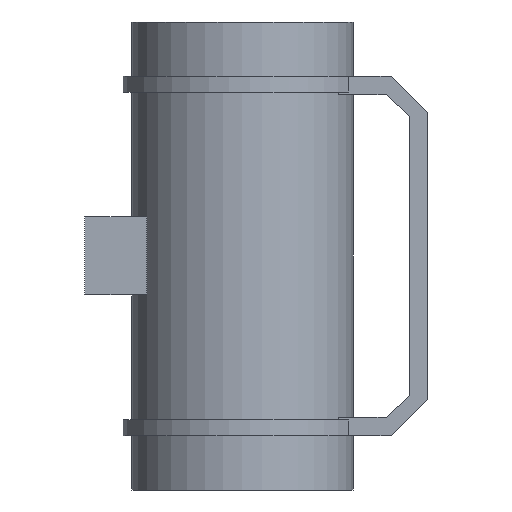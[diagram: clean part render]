
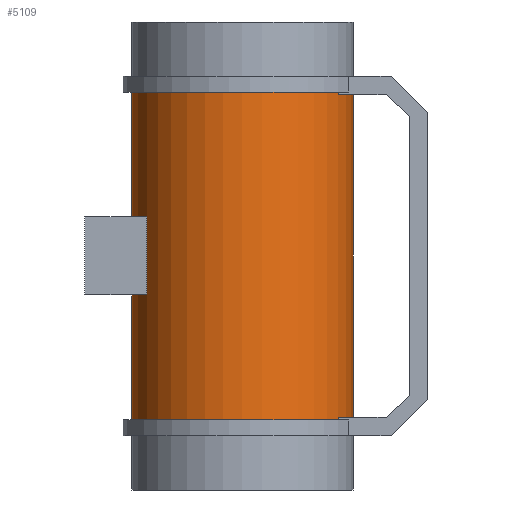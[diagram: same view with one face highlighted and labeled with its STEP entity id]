
A CAD part, front view. The second image highlights one B-rep face of the part: STEP entity #5109.
In plain terms, the highlighted cylindrical face has radius 61 mm (diameter 122 mm), a full revolution.
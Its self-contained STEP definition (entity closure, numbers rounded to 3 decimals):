
#198=FACE_BOUND('',#2053,.T.);
#199=FACE_BOUND('',#2054,.T.);
#483=CYLINDRICAL_SURFACE('',#5507,61.);
#496=LINE('',#7052,#960);
#506=LINE('',#7071,#970);
#507=LINE('',#7074,#971);
#517=LINE('',#7093,#981);
#518=LINE('',#7097,#982);
#522=LINE('',#7106,#986);
#960=VECTOR('',#5762,10.);
#970=VECTOR('',#5772,10.);
#971=VECTOR('',#5775,10.);
#981=VECTOR('',#5785,10.);
#982=VECTOR('',#5788,10.);
#986=VECTOR('',#5794,10.);
#1717=FACE_OUTER_BOUND('',#2052,.T.);
#2052=EDGE_LOOP('',(#4138,#4139,#4140,#4141));
#2053=EDGE_LOOP('',(#4142,#4143,#4144,#4145));
#2054=EDGE_LOOP('',(#4146,#4147,#4148,#4149));
#2274=CIRCLE('',#5328,61.);
#2275=CIRCLE('',#5330,61.);
#2278=CIRCLE('',#5340,61.);
#2279=CIRCLE('',#5342,61.);
#2385=CIRCLE('',#5506,61.);
#2386=CIRCLE('',#5508,61.);
#2438=VERTEX_POINT('',#7023);
#2439=VERTEX_POINT('',#7025);
#2440=VERTEX_POINT('',#7029);
#2442=VERTEX_POINT('',#7032);
#2446=VERTEX_POINT('',#7051);
#2455=VERTEX_POINT('',#7069);
#2456=VERTEX_POINT('',#7073);
#2465=VERTEX_POINT('',#7091);
#2466=VERTEX_POINT('',#7095);
#2467=VERTEX_POINT('',#7096);
#2470=VERTEX_POINT('',#7104);
#2471=VERTEX_POINT('',#7105);
#2906=EDGE_CURVE('',#2439,#2438,#2274,.T.);
#2908=EDGE_CURVE('',#2442,#2440,#2275,.T.);
#2916=EDGE_CURVE('',#2446,#2438,#496,.T.);
#2926=EDGE_CURVE('',#2440,#2455,#506,.T.);
#2927=EDGE_CURVE('',#2456,#2442,#507,.T.);
#2937=EDGE_CURVE('',#2439,#2465,#517,.T.);
#2938=EDGE_CURVE('',#2466,#2467,#518,.T.);
#2942=EDGE_CURVE('',#2470,#2471,#522,.T.);
#2946=EDGE_CURVE('',#2471,#2466,#2278,.T.);
#2948=EDGE_CURVE('',#2467,#2470,#2279,.T.);
#3303=EDGE_CURVE('',#2455,#2456,#2385,.T.);
#3304=EDGE_CURVE('',#2465,#2446,#2386,.T.);
#4138=ORIENTED_EDGE('',*,*,#2926,.T.);
#4139=ORIENTED_EDGE('',*,*,#3303,.T.);
#4140=ORIENTED_EDGE('',*,*,#2927,.T.);
#4141=ORIENTED_EDGE('',*,*,#2908,.T.);
#4142=ORIENTED_EDGE('',*,*,#2938,.T.);
#4143=ORIENTED_EDGE('',*,*,#2948,.T.);
#4144=ORIENTED_EDGE('',*,*,#2942,.T.);
#4145=ORIENTED_EDGE('',*,*,#2946,.T.);
#4146=ORIENTED_EDGE('',*,*,#2906,.F.);
#4147=ORIENTED_EDGE('',*,*,#2937,.T.);
#4148=ORIENTED_EDGE('',*,*,#3304,.T.);
#4149=ORIENTED_EDGE('',*,*,#2916,.T.);
#5109=ADVANCED_FACE('',(#1717,#198,#199),#483,.T.);
#5328=AXIS2_PLACEMENT_3D('',#7027,#5742,#5743);
#5330=AXIS2_PLACEMENT_3D('',#7033,#5747,#5748);
#5340=AXIS2_PLACEMENT_3D('',#7113,#5800,#5801);
#5342=AXIS2_PLACEMENT_3D('',#7116,#5805,#5806);
#5506=AXIS2_PLACEMENT_3D('',#8124,#6342,#6343);
#5507=AXIS2_PLACEMENT_3D('',#8125,#6344,#6345);
#5508=AXIS2_PLACEMENT_3D('',#8126,#6346,#6347);
#5742=DIRECTION('center_axis',(0.,0.,1.));
#5743=DIRECTION('ref_axis',(0.866,-0.5,0.));
#5747=DIRECTION('center_axis',(0.,0.,
1.));
#5748=DIRECTION('ref_axis',(0.866,-0.5,0.));
#5762=DIRECTION('',(0.,0.,-1.));
#5772=DIRECTION('',(0.,0.,-1.));
#5775=DIRECTION('',(0.,0.,1.));
#5785=DIRECTION('',(0.,0.,1.));
#5788=DIRECTION('',(0.,0.,1.));
#5794=DIRECTION('',(0.,0.,-1.));
#5800=DIRECTION('center_axis',(0.,0.,-1.));
#5801=DIRECTION('ref_axis',(-1.,0.,0.));
#5805=DIRECTION('center_axis',(0.,0.,1.));
#5806=DIRECTION('ref_axis',(-1.,0.,0.));
#6342=DIRECTION('center_axis',(0.,0.,1.));
#6343=DIRECTION('ref_axis',(-1.,0.,0.));
#6344=DIRECTION('center_axis',(0.,0.,1.));
#6345=DIRECTION('ref_axis',(-1.,0.,0.));
#6346=DIRECTION('center_axis',(0.,0.,-1.));
#6347=DIRECTION('ref_axis',(-1.,0.,0.));
#7023=CARTESIAN_POINT('',(52.828,30.5,89.));
#7025=CARTESIAN_POINT('',(52.828,-30.5,89.));
#7027=CARTESIAN_POINT('Origin',(0.,0.,
89.));
#7029=CARTESIAN_POINT('',(52.828,30.5,-89.));
#7032=CARTESIAN_POINT('',(52.828,-30.5,-89.));
#7033=CARTESIAN_POINT('Origin',(0.,0.,
-89.));
#7051=CARTESIAN_POINT('',(52.828,30.5,90.4));
#7052=CARTESIAN_POINT('',(52.828,30.5,0.));
#7069=CARTESIAN_POINT('',(52.828,30.5,-90.4));
#7071=CARTESIAN_POINT('',(52.828,30.5,0.));
#7073=CARTESIAN_POINT('',(52.828,-30.5,-90.4));
#7074=CARTESIAN_POINT('',(52.828,-30.5,0.));
#7091=CARTESIAN_POINT('',(52.828,-30.5,90.4));
#7093=CARTESIAN_POINT('',(52.828,-30.5,0.));
#7095=CARTESIAN_POINT('',(-52.828,30.5,-21.5));
#7096=CARTESIAN_POINT('',(-52.828,30.5,21.5));
#7097=CARTESIAN_POINT('',(-52.828,30.5,0.));
#7104=CARTESIAN_POINT('',(-52.828,-30.5,21.5));
#7105=CARTESIAN_POINT('',(-52.828,-30.5,-21.5));
#7106=CARTESIAN_POINT('',(-52.828,-30.5,0.));
#7113=CARTESIAN_POINT('Origin',(0.,0.,-21.5));
#7116=CARTESIAN_POINT('Origin',(0.,0.,21.5));
#8124=CARTESIAN_POINT('Origin',(0.,0.,-90.4));
#8125=CARTESIAN_POINT('Origin',(0.,0.,0.));
#8126=CARTESIAN_POINT('Origin',(0.,0.,90.4));
